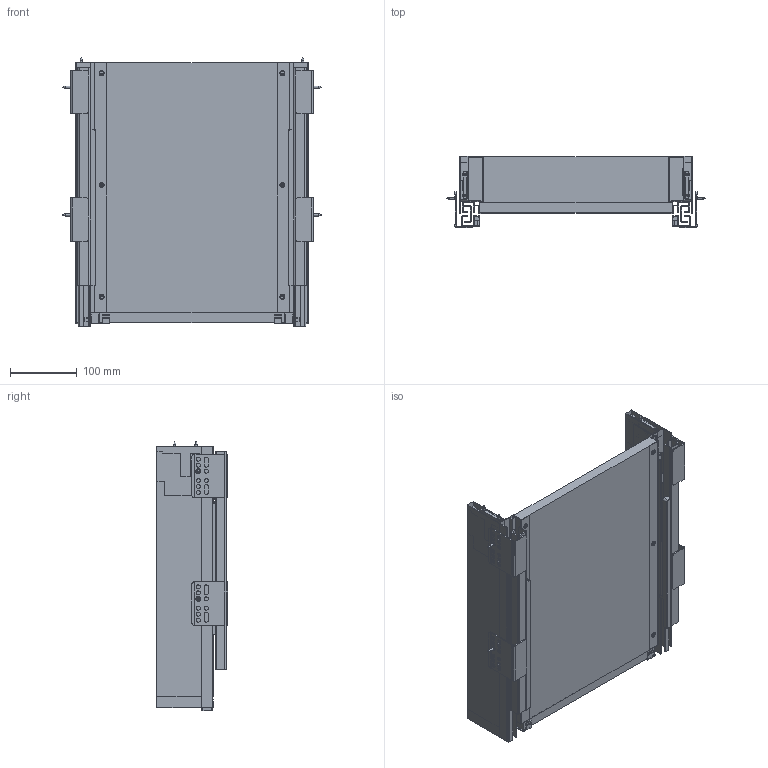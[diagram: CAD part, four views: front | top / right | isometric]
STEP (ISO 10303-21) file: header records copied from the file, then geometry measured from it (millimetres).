
FILE_DESCRIPTION(/* description */ (''),/* implementation_level */ '2;1');
FILE_NAME(/* name */ 'D:\$Workingspace\Designs\Katalog\Cadsoft\GTV Prowadnice\GTV 3D AXISPRO\Model\PB-AXISPRO-KPL400A_A1.stp',/* time_stamp */ '2019-10-18T16:07:11+02:00',/* author */ ('tomaszw'),/* organization */ (''),/* preprocessor_version */ 'ST-DEVELOPER v17.2',/* originating_system */ 'Autodesk Inventor 2019',/* authorisation */ '');
FILE_SCHEMA (('AUTOMOTIVE_DESIGN { 1 0 10303 214 3 1 1 }'));
Length unit declared in the file: millimetre
Products named in the file (1): PB-AXISPRO-KPL400A1-F
Bounding box: 388.6 x 107 x 404.9 mm (x, y, z)
Volume: 2552019.2 mm3; surface area: 980970.3 mm2
Topology: 41 solids, 43 shells, 1508 faces, 3958 edges, 2586 vertices
Faces by surface type: plane 1076, cylinder 280, cone 92, bspline 52, sphere 6, torus 2
Full cylindrical faces by diameter (mm): 2 x2, 3.5 x22, 6 x40, 7.5 x20, 7.8 x2, 8.5 x2, 10 x6
Entity records: 46898 total; most frequent: CARTESIAN_POINT 9145, ORIENTED_EDGE 7904, DIRECTION 7430, EDGE_CURVE 3952, LINE 3120, VECTOR 3120, VERTEX_POINT 2586, AXIS2_PLACEMENT_3D 2155
